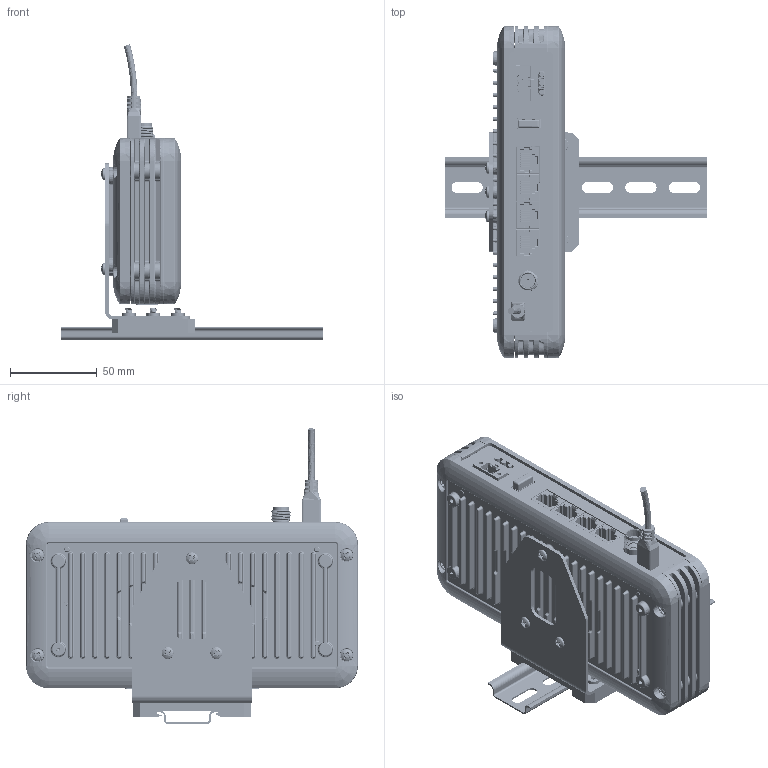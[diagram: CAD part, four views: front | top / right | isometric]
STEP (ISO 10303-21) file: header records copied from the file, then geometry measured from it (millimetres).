
FILE_DESCRIPTION (( 'STEP AP214' ), '1' );
FILE_NAME ('Z9-PE2.STEP', '2018-12-16T00:11:01', ( '' ), ( '' ), 'SwSTEP 2.0', 'SolidWorks 2016', '' );
FILE_SCHEMA (( 'AUTOMOTIVE_DESIGN' ));
Length unit declared in the file: inch
Products named in the file (110): Winford DINM15-RC Clip; 0402_ERE0000FP; HSC0605PP_96562A602; ECN0280MS (J7); AB07_EXT3276SZ; 0603_ECA0106SX; Winford DINM15-RC Base; 0402_ERE2002FP; MICRO-USB-CONNECTOR; ECN1478FS (J3); FA238_EXT0024CS; 0402_ECA0104FX; MCA0005SD; 0402_ERE475RFP; USB Flash Drive; _C_0702_pins_4; XTAL_ABM3C_EXT1474AA; 0402_ECA0104LS; MCA0007BT; 0402_ERE1002FP; LLR0070SP; CLT_107_02_G_D_socket; QFN14HS_EIC6302PS; 0402_ECA0103FX; McMaster-Carr 92311A143_92311A143; 0402_ERE0330FP; CTP0003TH; ECN0002AA (J1); SOTFL50P160X606N_EIC1020SS; epc0091xa81315n bottom_Z9-T; McMaster-Carr 91772A103_91772A103; MST0206SFMM2_MST0206SFMM2; CTP0002TH; EOP0002ZM; SOP65P640X11016N_EIC1674SS; LLR0080SP; PEM CSS-632-4; MTH093X180_MTH093X180; CTP0001TH; RLPH3-3_1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
Assembly tree (261 placements, depth 6):
  MST0206SFMM2_MST0206SFMM2
  MTH093X180_MTH093X180
  XROUNDTOP_LARGE_XROUNDTOP1_6
  MTH030_TP30
  Z9-PE2
    Z9-P2_BoardSet
      AII0001AA_Z9-P Version
        EPC0095AB
        ECN4758MS (J18)
        ECN0502FR (J12)
        ECN5120TR (J4)
        EOP0002ZM
          LPR3-600-800_1
          RLPH3-3_1
        ECN0002AA (J1)
        ECN1478FS (J3)
          CLT_107_02_G_D_socket
          _C_0702_pins_4
        ECN0280MS (J7)
        Adhesive_MicroUSB
        EOP0062RG LED  x3
        Adhesive_USB-TypeA
        EIC3352AM
        RJ45 (Link-PP)_ECN9717AA  x2
        RJ45 (Link-PP)_ECN9718AA  x2
        PEM YSMTSO-65836-ET  x4
      McMaster-Carr 91772A073_91772A073  x4
      Z9-C&T_AMT0100AB
        EPC0091XA_Single PCB
        TMM-107-01-G-D-SM-A-P-TR
          _TMM-107-01-G-D-SM-A-P-TR_body
          _TMM-107-01-G-D-SM_pin  x26
        Thor-A_emn_Z9-T
          epc0091xa81315n bottom_Z9-T
            LLR0080SP
          epc0091xa81315n top
            0402_ECA0103FX  x8
            0402_ECA0104LS  x2
            0402_ECA0104FX  x16
            0603_ECA0106SX  x5
            0402_ECA0105XV  x8
            0402_ECA0220FC  x3
            0402_ECA0120FC  x2
            0402_ECA0180FC  x2
            0402_ECA0020FP  x5
            EOP0026RG_EOP0062RG  x3
            SC703_EDI0099SD  x10
            0805IND_EIN0103FS
            0402_EIN0101FG
            0402_EIN0082FW  x2
            0805IND_EFI0805FB  x2
            EIN0472PS_EIN0102PT
            0402_ERE0330FP  x25
            0402_ERE1002FP  x12
            0402_ERE475RFP  x2
            0402_ERE2002FP
            0402_ERE0000FP  x10
            0402_ERE1004FP
            0402_ERE1001FP
            0402_ERE2001FP  x4
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Bounding box: 150.28 x 190.93 x 170.02 mm (x, y, z)
Volume: 319648.2 mm3; surface area: 258254.2 mm2
Topology: 290 solids, 290 shells, 11400 faces, 29913 edges, 19468 vertices
Faces by surface type: plane 5750, cylinder 3508, bspline 1135, cone 544, torus 296, sphere 167
Entity records: 332910 total; most frequent: CARTESIAN_POINT 122255, ORIENTED_EDGE 41954, DIRECTION 36013, EDGE_CURVE 20977, VERTEX_POINT 13750, LINE 12295, VECTOR 12295, AXIS2_PLACEMENT_3D 11859
